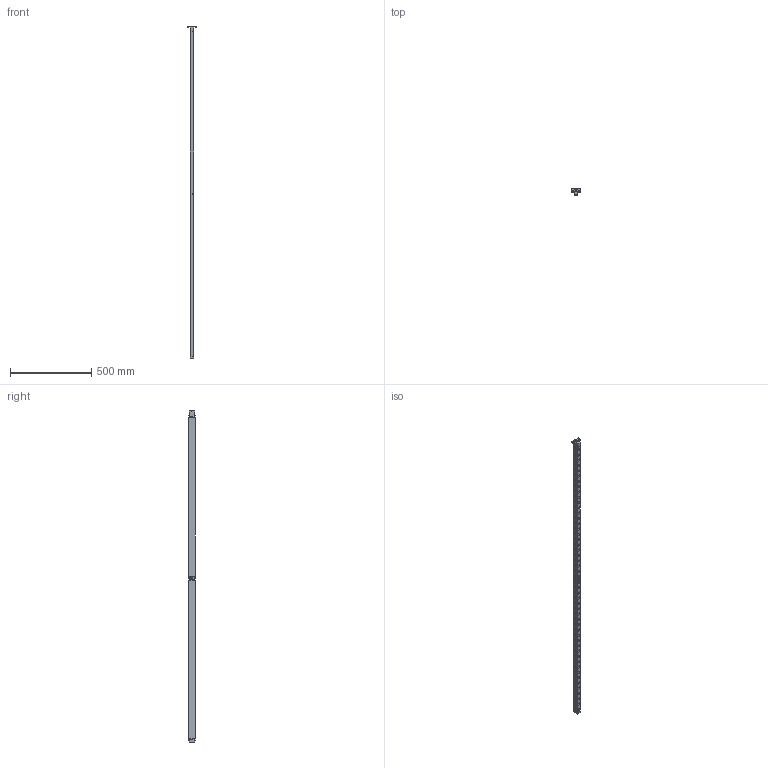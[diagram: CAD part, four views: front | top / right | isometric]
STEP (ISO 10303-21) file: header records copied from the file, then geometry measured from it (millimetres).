
FILE_DESCRIPTION(/* description */ (''),/* implementation_level */ '2;1');
FILE_NAME(/* name */ 'S:\EASCN Vault\Designs\Standard Part\DIE LIFTERS\EHB\EHB- 3D step\EHB22 - 3D step complete serie\EHB 22-50.stp',/* time_stamp */ '2019-11-21T16:17:29+08:00',/* author */ ('yue.yang'),/* organization */ (''),/* preprocessor_version */ 'ST-DEVELOPER v17',/* originating_system */ 'Autodesk Inventor 2019',/* authorisation */ '');
FILE_SCHEMA (('AUTOMOTIVE_DESIGN { 1 0 10303 214 3 1 1 }'));
Products named in the file (1): EHB 22-50_Shrinkwrap_1
Bounding box: 58 x 37.8 x 2049 mm (x, y, z)
Volume: 1312922.8 mm3; surface area: 515091.7 mm2
Topology: 169 solids, 169 shells, 1607 faces, 4450 edges, 3232 vertices
Faces by surface type: plane 546, cylinder 518, torus 250, cone 243, sphere 50
Full cylindrical faces by diameter (mm): 3 x3, 4.134 x1, 5 x27, 5.5 x5, 6 x52, 6.647 x2, 8 x2, 10 x8, 10.5 x1, 12.2 x50, 16 x50, 16.4 x50, 17.05 x50, 19.05 x50, 19.2 x50
Entity records: 60691 total; most frequent: CARTESIAN_POINT 15271, DIRECTION 9969, ORIENTED_EDGE 8588, AXIS2_PLACEMENT_3D 4457, EDGE_CURVE 4294, VERTEX_POINT 3232, CIRCLE 2847, EDGE_LOOP 2078
